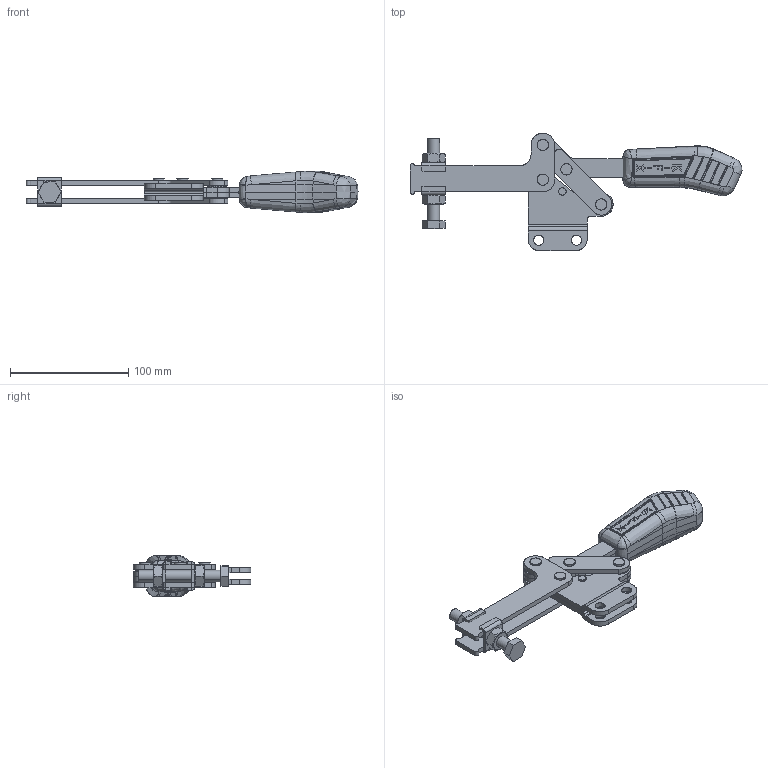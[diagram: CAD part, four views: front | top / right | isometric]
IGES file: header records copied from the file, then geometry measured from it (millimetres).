
Start section: SolidWorks IGES file using analytic representation for surfaces
Global section: file name: C:\Projetos\Grampos\KF-531\KF-531 RL\KF-531 RL.IGS; native system: SolidWorks 2013; preprocessor: SolidWorks 2013; author: Ricardo; date: 140818.115044; units: millimetre
Bounding box: 281.19 x 99.69 x 35.04 mm (x, y, z)
Surface area: 81715.2 mm2 (no closed solid volume)
Topology: 0 solids, 0 shells, 825 faces, 9632 edges, 9601 vertices
Faces by surface type: bspline 447, revolution 378
